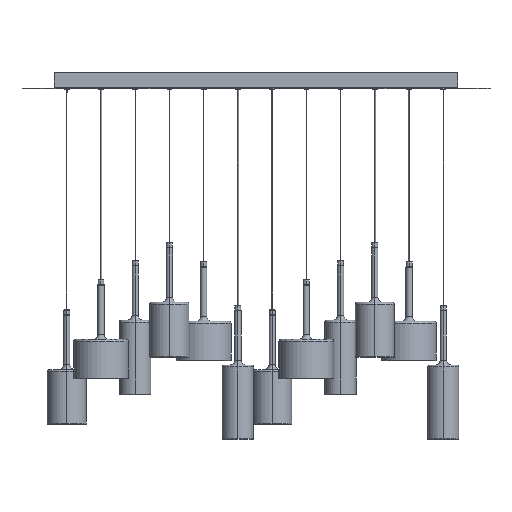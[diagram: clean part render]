
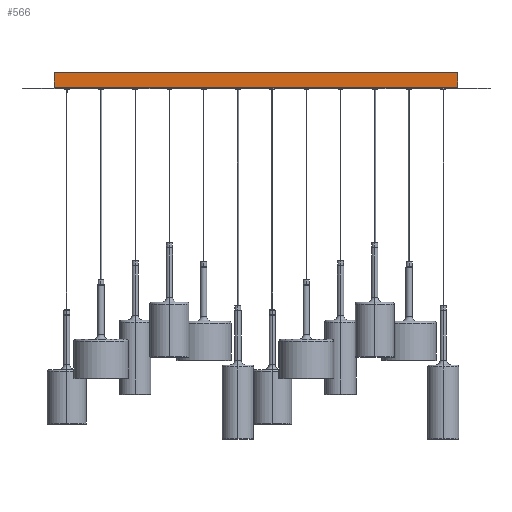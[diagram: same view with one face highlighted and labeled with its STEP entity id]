
A CAD part, top view. The second image highlights one B-rep face of the part: STEP entity #566.
In plain terms, the highlighted planar face has unit normal (0, 0, 1).
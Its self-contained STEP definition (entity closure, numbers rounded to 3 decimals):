
#400 = ORIENTED_EDGE ( 'NONE', *, *, #1959, .T. ) ;
#566 = ADVANCED_FACE ( 'NONE', ( #23385 ), #9753, .T. ) ;
#633 = VERTEX_POINT ( 'NONE', #7552 ) ;
#1127 = VERTEX_POINT ( 'NONE', #12309 ) ;
#1676 = LINE ( 'NONE', #9599, #6099 ) ;
#1959 = EDGE_CURVE ( 'NONE', #3040, #23060, #2371, .T. ) ;
#2371 = LINE ( 'NONE', #24044, #11788 ) ;
#2469 = LINE ( 'NONE', #6493, #3143 ) ;
#3040 = VERTEX_POINT ( 'NONE', #16046 ) ;
#3143 = VECTOR ( 'NONE', #22457, 1000. ) ;
#5778 = CARTESIAN_POINT ( 'NONE',  ( 515., 0., 60. ) ) ;
#6099 = VECTOR ( 'NONE', #17523, 1000. ) ;
#6493 = CARTESIAN_POINT ( 'NONE',  ( -515., 0., 60. ) ) ;
#6966 = CARTESIAN_POINT ( 'NONE',  ( -515., 40., 60. ) ) ;
#7552 = CARTESIAN_POINT ( 'NONE',  ( 515., 2.5, 60. ) ) ;
#7779 = EDGE_CURVE ( 'NONE', #1127, #633, #1676, .T. ) ;
#7937 = ORIENTED_EDGE ( 'NONE', *, *, #7779, .T. ) ;
#8042 = EDGE_CURVE ( 'NONE', #633, #3040, #23445, .T. ) ;
#9599 = CARTESIAN_POINT ( 'NONE',  ( 0., 2.5, 60. ) ) ;
#9753 = PLANE ( 'NONE',  #15155 ) ;
#9916 = DIRECTION ( 'NONE',  ( -1., 0., 0. ) ) ;
#11788 = VECTOR ( 'NONE', #9916, 1000. ) ;
#12309 = CARTESIAN_POINT ( 'NONE',  ( -515., 2.5, 60. ) ) ;
#15155 = AXIS2_PLACEMENT_3D ( 'NONE', #17419, #25581, #15977 ) ;
#15977 = DIRECTION ( 'NONE',  ( 1., 0., 0. ) ) ;
#16046 = CARTESIAN_POINT ( 'NONE',  ( 515., 40., 60. ) ) ;
#17419 = CARTESIAN_POINT ( 'NONE',  ( 0., 0., 60. ) ) ;
#17523 = DIRECTION ( 'NONE',  ( 1., 0., 0. ) ) ;
#17744 = VECTOR ( 'NONE', #19813, 1000. ) ;
#18541 = EDGE_CURVE ( 'NONE', #23060, #1127, #2469, .T. ) ;
#19813 = DIRECTION ( 'NONE',  ( 0., 1., 0. ) ) ;
#20084 = ORIENTED_EDGE ( 'NONE', *, *, #18541, .T. ) ;
#22311 = EDGE_LOOP ( 'NONE', ( #20084, #7937, #23225, #400 ) ) ;
#22457 = DIRECTION ( 'NONE',  ( 0., -1., 0. ) ) ;
#23060 = VERTEX_POINT ( 'NONE', #6966 ) ;
#23225 = ORIENTED_EDGE ( 'NONE', *, *, #8042, .T. ) ;
#23385 = FACE_OUTER_BOUND ( 'NONE', #22311, .T. ) ;
#23445 = LINE ( 'NONE', #5778, #17744 ) ;
#24044 = CARTESIAN_POINT ( 'NONE',  ( 0., 40., 60. ) ) ;
#25581 = DIRECTION ( 'NONE',  ( 0., 0., 1. ) ) ;
